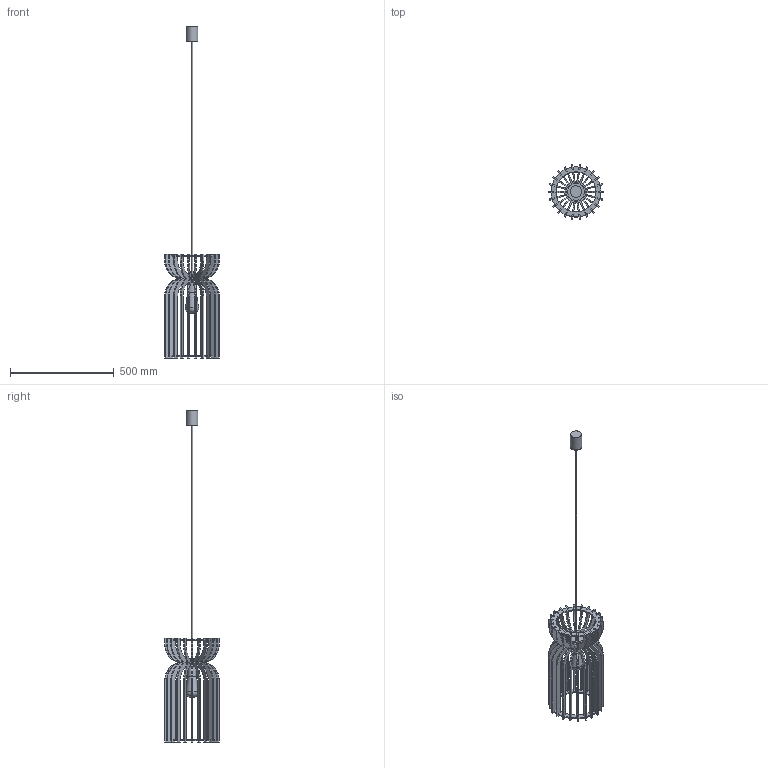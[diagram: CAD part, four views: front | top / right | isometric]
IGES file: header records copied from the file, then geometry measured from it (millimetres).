
Start section: SolidWorks IGES file using analytic representation for surfaces
Global section: file name: X:\PRODUKT\Modele 3D_WWW\_KOLEKCJE WWW\KYMI\KYMI-A-10570-10573\KYMI-A-10570-10573.IGS; native system: SolidWorks 2021; preprocessor: SolidWorks 2021; author: gabriela.tworek; date: 221125.130022; units: millimetre
Bounding box: 265 x 263.16 x 1600 mm (x, y, z)
Surface area: 941511 mm2 (no closed solid volume)
Topology: 0 solids, 0 shells, 438 faces, 1989 edges, 1922 vertices
Faces by surface type: bspline 277, revolution 161
